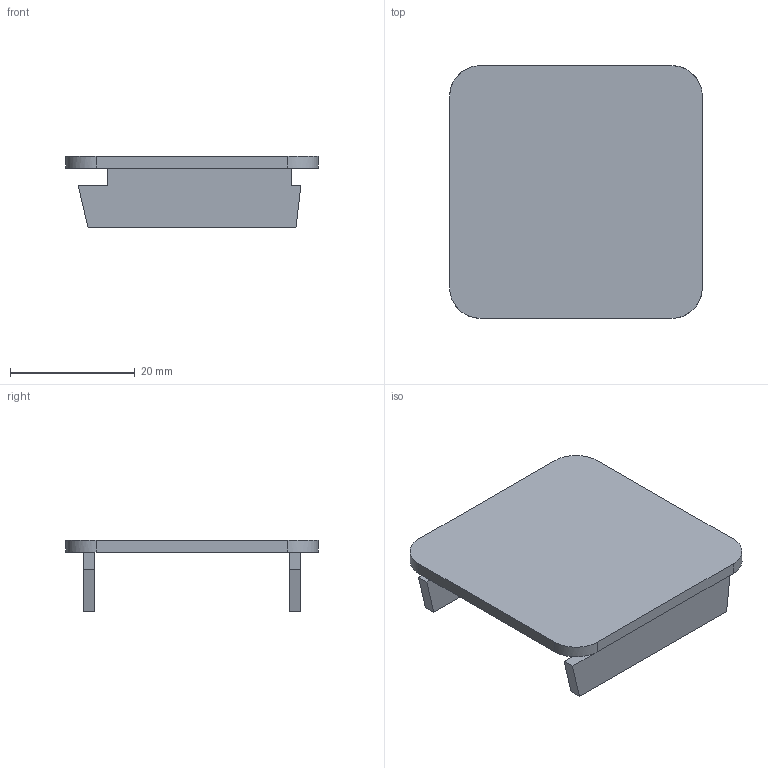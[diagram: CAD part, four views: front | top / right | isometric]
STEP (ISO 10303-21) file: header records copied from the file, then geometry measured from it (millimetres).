
FILE_DESCRIPTION(('TurboCAD Mac Pro'),'Build 980');
FILE_NAME('P1180.stp',' ',(''),(''),'ACIS Interop','IMSI','TurboCAD Mac Pro BY IMSI, INCORPORATED');
FILE_SCHEMA(('automotive_design'));
Length unit declared in the file: inch
Products named in the file (1): 1
Bounding box: 40.48 x 40.48 x 11.43 mm (x, y, z)
Volume: 4281.7 mm3; surface area: 4900.6 mm2
Topology: 1 solids, 1 shells, 28 faces, 72 edges, 48 vertices
Faces by surface type: plane 24, bspline 4
Entity records: 1108 total; most frequent: CARTESIAN_POINT 201, ORIENTED_EDGE 144, DIRECTION 114, EDGE_CURVE 72, LINE 64, VECTOR 64, VERTEX_POINT 48, EDGE_LOOP 30
